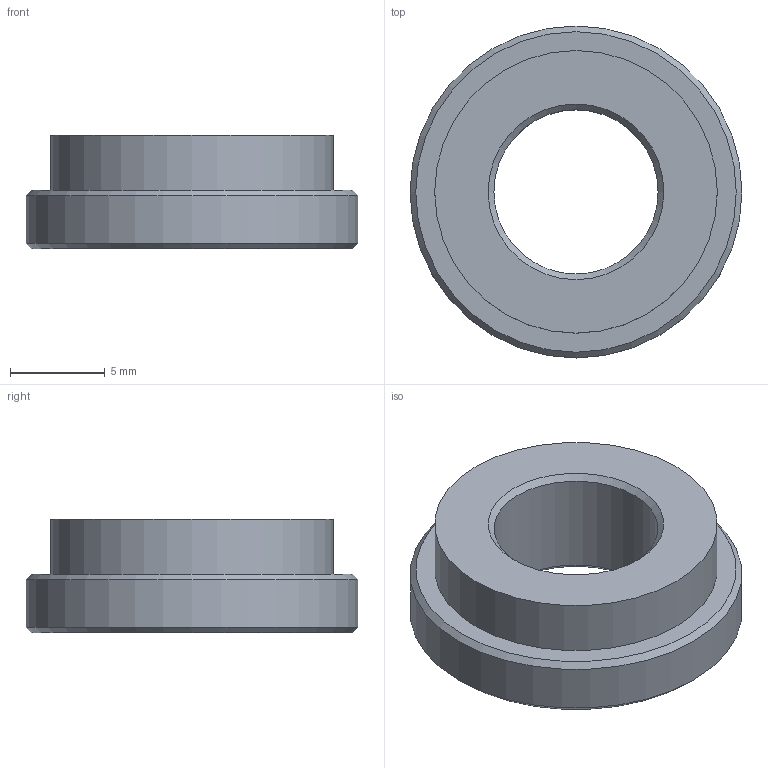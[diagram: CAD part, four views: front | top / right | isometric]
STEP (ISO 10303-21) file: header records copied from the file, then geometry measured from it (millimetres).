
FILE_DESCRIPTION((''),'2;1');
FILE_NAME('W:\Technik\Konstruktion\CAD-Daten\Vakuumsauger\270_\270.233\270.233.stp','2013-01-24T08:04:34',('SKronawitter'),(''),'Autodesk Inventor 2012','Autodesk Inventor 2012','');
FILE_SCHEMA(('AUTOMOTIVE_DESIGN { 1 0 10303 214 1 1 1 1 }'));
Length unit declared in the file: millimetre
Products named in the file (1): 270.233
Bounding box: 17.5 x 17.5 x 6 mm (x, y, z)
Volume: 890.5 mm3; surface area: 803.8 mm2
Topology: 1 solids, 1 shells, 10 faces, 18 edges, 11 vertices
Faces by surface type: cone 4, cylinder 3, plane 3
Full cylindrical faces by diameter (mm): 8.66 x1, 14.9 x1, 17.5 x1
Entity records: 234 total; most frequent: DIRECTION 42, CARTESIAN_POINT 31, AXIS2_PLACEMENT_3D 21, ORIENTED_EDGE 20, EDGE_LOOP 20, VERTEX_POINT 10, CIRCLE 10, EDGE_CURVE 10
